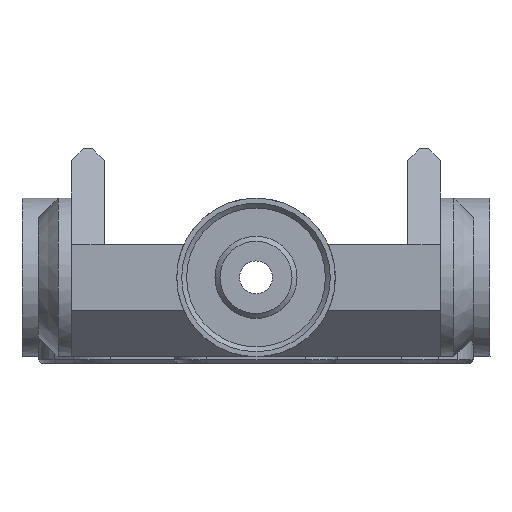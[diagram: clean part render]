
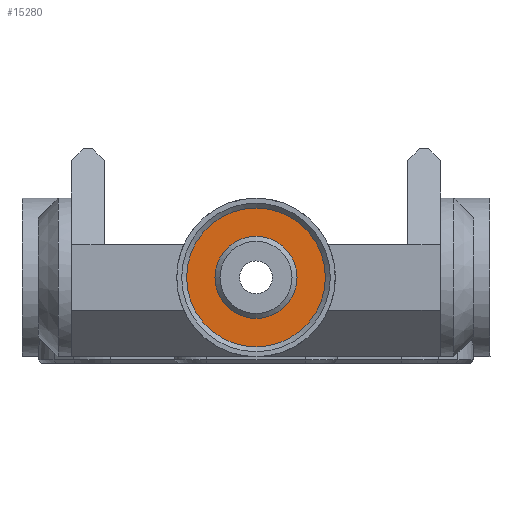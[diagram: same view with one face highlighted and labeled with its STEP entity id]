
A CAD part, left-side view. The second image highlights one B-rep face of the part: STEP entity #15280.
In plain terms, the highlighted planar face has unit normal (-1, 0, 0).
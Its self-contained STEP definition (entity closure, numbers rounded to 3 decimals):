
#845=FACE_BOUND('',#3054,.T.);
#1298=PLANE('',#16216);
#2117=FACE_OUTER_BOUND('',#3053,.T.);
#3053=EDGE_LOOP('',(#14252));
#3054=EDGE_LOOP('',(#14253));
#6091=CIRCLE('',#15660,21.05);
#6100=CIRCLE('',#15686,12.45);
#7173=VERTEX_POINT('',#25605);
#7222=VERTEX_POINT('',#25736);
#8999=EDGE_CURVE('',#7173,#7173,#6091,.T.);
#9062=EDGE_CURVE('',#7222,#7222,#6100,.T.);
#14252=ORIENTED_EDGE('',*,*,#8999,.T.);
#14253=ORIENTED_EDGE('',*,*,#9062,.T.);
#15280=ADVANCED_FACE('',(#2117,#845),#1298,.T.);
#15660=AXIS2_PLACEMENT_3D('',#25607,#17697,#17698);
#15686=AXIS2_PLACEMENT_3D('',#25738,#17801,#17802);
#16216=AXIS2_PLACEMENT_3D('',#28501,#19445,#19446);
#17697=DIRECTION('center_axis',(-1.,0.,0.));
#17698=DIRECTION('ref_axis',(0.,-1.,0.));
#17801=DIRECTION('center_axis',(1.,0.,0.));
#17802=DIRECTION('ref_axis',(0.,1.,0.));
#19445=DIRECTION('center_axis',(-1.,0.,0.));
#19446=DIRECTION('ref_axis',(0.,0.,-1.));
#25605=CARTESIAN_POINT('',(-138.111,20.15,25.789));
#25607=CARTESIAN_POINT('Origin',(-138.111,-0.9,25.789));
#25736=CARTESIAN_POINT('',(-138.111,-13.35,25.789));
#25738=CARTESIAN_POINT('Origin',(-138.111,-0.9,25.789));
#28501=CARTESIAN_POINT('Origin',(-138.111,55.1,35.75));
